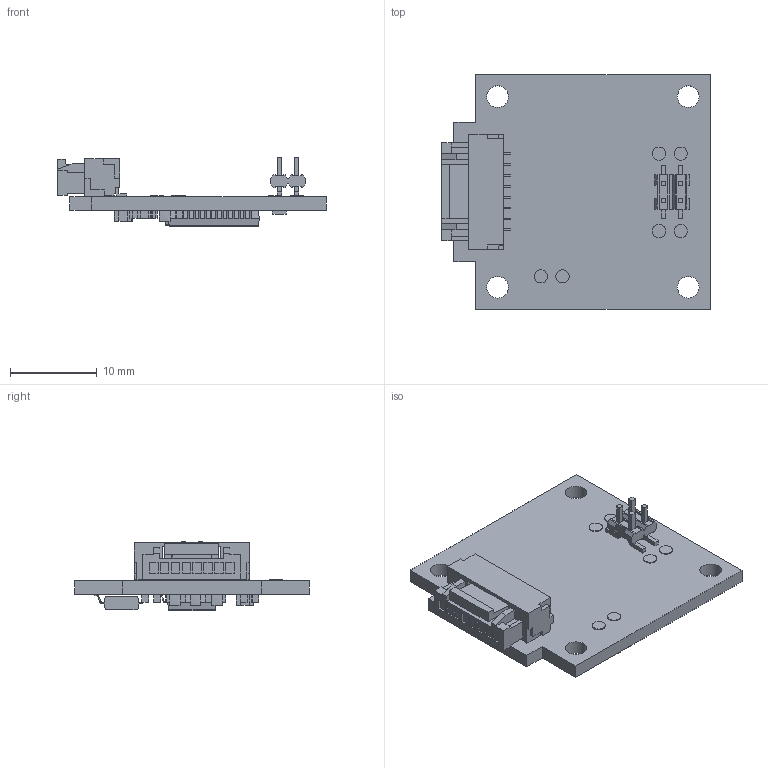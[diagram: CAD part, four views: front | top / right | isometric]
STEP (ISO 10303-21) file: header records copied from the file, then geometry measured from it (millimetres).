
FILE_DESCRIPTION(/* description */ ('Unknown'),/* implementation_level */ '2;1');
FILE_NAME(/* name */ 'SEM04V12R00-00',/* time_stamp */ '2025-12-10T15:51:57+01:00',/* author */ ('Unknown'),/* organization */ ('Unknown'),/* preprocessor_version */ 'ST-DEVELOPER v16.7',/* originating_system */ 'Solid Edge',/* authorisation */ 'Unknown');
FILE_SCHEMA (('AUTOMOTIVE_DESIGN {1 0 10303 214 3 1 1}'));
Length unit declared in the file: millimetre
Products named in the file (69): SEM04V12R00-00; Board; Open CASCADE STEP translator 7.5 4.1.1; TPT101; TP-60mil; TPT100; J100; 57202f5102alf; CN1; GHR-08V-S; SM08B-GHS-TB; R101; cr0603; C114; CAPC1608X09; C113; C112; C111; SMD_Capacitors_0805_T1e25; C110; C109; C108; C106; U101; IC-SSOP28; IC-SSOP28-AM256_ASM; PADRAO_LINEAR2_18_; PADRAO_LINEAR2_12_; PADRAO_LINEAR2_9_; PADRAO_LINEAR2_19_; PADRAO_LINEAR2_7_; PADRAO_LINEAR2_13_; PADRAO_LINEAR2_22_; PADRAO_LINEAR2_23_; CUT-EXTRUDE1; PADRAO_LINEAR2_10_; PADRAO_LINEAR2_17_; PADRAO_LINEAR2_11_; PADRAO_LINEAR2_14_; PADRAO_LINEAR2_15_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
Assembly tree (86 placements, depth 5):
  SEM04V12R00-00
    Board
      Open CASCADE STEP translator 7.5 4.1.1
    TPT101
      TP-60mil
    TPT100
      TP-60mil
    J100
      57202f5102alf
    CN1
      GHR-08V-S
      SM08B-GHS-TB
    R101
      cr0603
    C114
      CAPC1608X09
    C113
      CAPC1608X09
    C112
      CAPC1608X09
    C111
      SMD_Capacitors_0805_T1e25
    C110
      SMD_Capacitors_0805_T1e25
    C109
      CAPC1608X09
    C108
      CAPC1608X09
    C106
      CAPC1608X09
    U101
      IC-SSOP28
        IC-SSOP28-AM256_ASM
          PADRAO_LINEAR2_18_
          PADRAO_LINEAR2_12_
          PADRAO_LINEAR2_9_
          PADRAO_LINEAR2_19_
          PADRAO_LINEAR2_7_
          PADRAO_LINEAR2_13_
          PADRAO_LINEAR2_22_
          PADRAO_LINEAR2_23_
          CUT-EXTRUDE1
          PADRAO_LINEAR2_10_
          PADRAO_LINEAR2_17_
          PADRAO_LINEAR2_11_
          PADRAO_LINEAR2_14_
          PADRAO_LINEAR2_15_
          PADRAO_LINEAR2_16_
          EXTRUSAO3_1_
          EXTRUSAO3_2_
          PADRAO_LINEAR2_4_
          PADRAO_LINEAR2_5_
          EXTRUSAO2
          PADRAO_LINEAR2_6_
          PADRAO_LINEAR2_3_
          PADRAO_LINEAR2_2_
          PADRAO_LINEAR2_21_
          PADRAO_LINEAR2_24_
          PADRAO_LINEAR2_25_
          PADRAO_LINEAR2_1_
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Bounding box: 30.9 x 27 x 7.99 mm (x, y, z)
Volume: 1707 mm3; surface area: 3183.6 mm2
Topology: 57 solids, 57 shells, 1681 faces, 4232 edges, 2577 vertices
Faces by surface type: plane 1055, cylinder 478, sphere 128, bspline 20
Full cylindrical faces by diameter (mm): 0.6 x1, 1 x1, 1.524 x6, 2.5 x4
Entity records: 37935 total; most frequent: CARTESIAN_POINT 6022, ORIENTED_EDGE 5702, DIRECTION 5620, EDGE_CURVE 2851, LINE 2380, VECTOR 2380, VERTEX_POINT 1870, AXIS2_PLACEMENT_3D 1620
